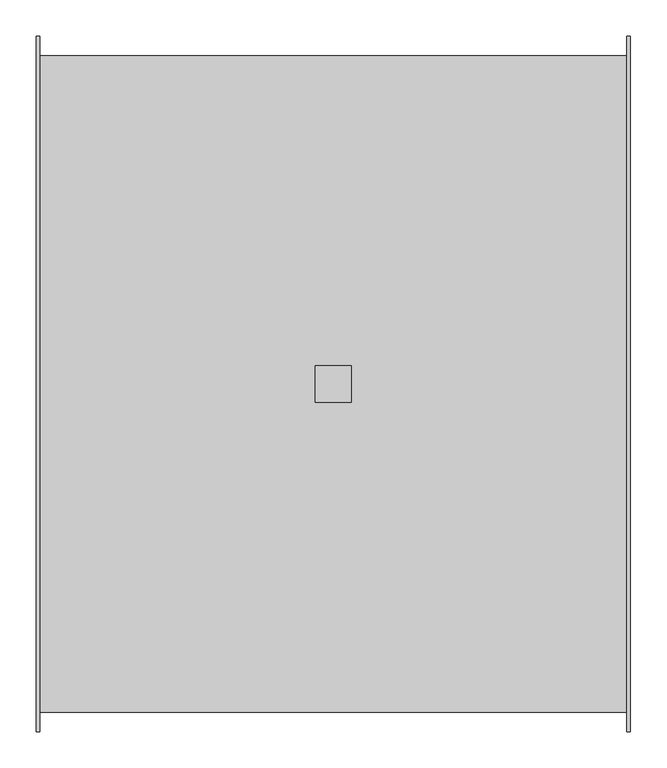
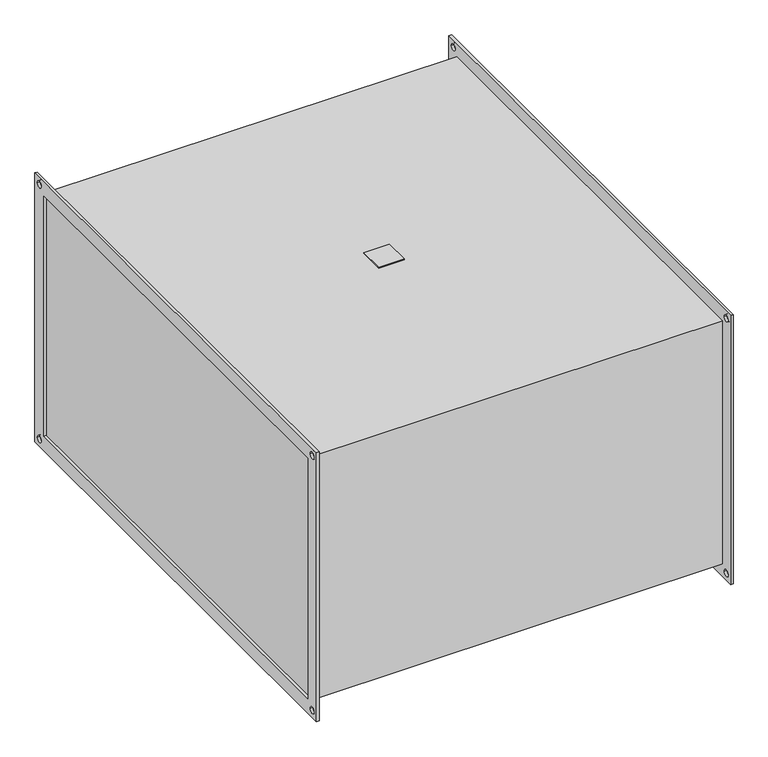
"""IFC4 building model written with IfcOpenShell, lengths in millimetres: damper geometry, KORF_Фильтр_Карманный_FKR : FKR 90-50  EU3."""

import ifcopenshell
import ifcopenshell.guid

model = None  # the IFC model being written
_history = None  # IfcOwnerHistory: only IFC2X3 demands one
_inside = {}  # id of a spatial element -> (the spatial element, [elements in it])
_under = {}  # id of a project, library or spatial element -> (it, [spatial elements below it])
_declared = {}  # id of a project -> (the project, [libraries it declares])
_typed = {}  # id of a type object -> (the type object, [elements of that type])
_made_of = {}  # id of a material, layer set ... -> (it, [elements and type objects made of it])


def new_model(schema):
    """Start an empty IFC model of exactly this schema.

    Asked for "IFC4X3", IfcOpenShell would pick the latest addendum, in which some entities
    have other attributes; the version numbers below select the first issue.
    IFC2X3 requires an IfcOwnerHistory on every rooted entity: one is made here for all.
    """
    global model, _history
    if schema == "IFC4X3":
        model = ifcopenshell.file(schema_version=(4, 3, 0, 0))
    else:
        model = ifcopenshell.file(schema=schema)
    _inside.clear()
    _under.clear()
    _declared.clear()
    _typed.clear()
    _made_of.clear()
    _history = None
    if model.schema == "IFC2X3":
        org = make("IfcOrganization", Name="unknown")
        user = make(
            "IfcPersonAndOrganization",
            ThePerson=make("IfcPerson", FamilyName="unknown"),
            TheOrganization=org,
        )
        app = make(
            "IfcApplication",
            ApplicationDeveloper=org,
            Version="unknown",
            ApplicationFullName="unknown",
            ApplicationIdentifier="unknown",
        )
        _history = make(
            "IfcOwnerHistory",
            OwningUser=user,
            OwningApplication=app,
            ChangeAction="ADDED",
            CreationDate=0,
        )
    return model


def make(cls, **values):
    """One entity of the class cls with the attributes given. An attribute that is None is left unset."""
    return model.create_entity(
        cls, **{name: value for name, value in values.items() if value is not None}
    )


def rooted(cls, **values):
    """An entity with a GlobalId (a new one), such as an element, a storey or a relation."""
    return make(cls, GlobalId=ifcopenshell.guid.new(), OwnerHistory=_history, **values)


def si_unit(unit_type, name, prefix=None):
    """IfcSIUnit, for example si_unit("LENGTHUNIT", "METRE", prefix="MILLI")."""
    return make("IfcSIUnit", UnitType=unit_type, Prefix=prefix, Name=name)


def assignment(units):
    """IfcUnitAssignment: the units of a project."""
    return None if units is None else make("IfcUnitAssignment", Units=units)


def point(xyz):
    """IfcCartesianPoint."""
    return None if xyz is None else make("IfcCartesianPoint", Coordinates=xyz)


def direction(xyz):
    """IfcDirection."""
    return None if xyz is None else make("IfcDirection", DirectionRatios=xyz)


def frame(location, z_axis=None, x_axis=None):
    """IfcAxis2Placement3D, a coordinate frame: its origin and axes. An axis left out is left unset."""
    return make(
        "IfcAxis2Placement3D",
        Location=point(location),
        Axis=direction(z_axis),
        RefDirection=direction(x_axis),
    )


def frame_2d(location, x_axis=None):
    """IfcAxis2Placement2D, a coordinate frame in the plane: its origin and x axis."""
    return make(
        "IfcAxis2Placement2D", Location=point(location), RefDirection=direction(x_axis)
    )


def origin():
    """The frame at (0, 0, 0) with its axes left unset."""
    return frame((0.0, 0.0, 0.0))


def place(relative_to, where):
    """IfcLocalPlacement: puts the frame where relative to a parent placement (None: the world)."""
    return make(
        "IfcLocalPlacement", PlacementRelTo=relative_to, RelativePlacement=where
    )


def context(
    kind, dimensions, precision=None, world=None, true_north=None, identifier=None
):
    """IfcGeometricRepresentationContext, for example the 3D "Model" context."""
    return make(
        "IfcGeometricRepresentationContext",
        ContextIdentifier=identifier,
        ContextType=kind,
        CoordinateSpaceDimension=dimensions,
        Precision=precision,
        WorldCoordinateSystem=world,
        TrueNorth=true_north,
    )


def project(units=None, contexts=None):
    """IfcProject with its units and contexts."""
    return rooted(
        "IfcProject",
        Name="project",
        RepresentationContexts=contexts,
        UnitsInContext=assignment(units),
    )


def spatial(cls, under=None, at=None, **own):
    """A site, building, storey or space (cls), placed at a placement, below another one or the project."""
    s = rooted(cls, ObjectPlacement=at, **own)
    if under is not None:
        _under.setdefault(under.id(), (under, []))[1].append(s)
    return s


def polyline(points):
    """IfcPolyline through the points."""
    return make("IfcPolyline", Points=[point(p) for p in points])


def circle_curve(where, radius):
    """IfcCircle in the frame where."""
    return make("IfcCircle", Position=where, Radius=radius)


def trimmed(basis, trim1, trim2, sense, master):
    """IfcTrimmedCurve: the piece of a basis curve between two trims."""
    return make(
        "IfcTrimmedCurve",
        BasisCurve=basis,
        Trim1=trim1,
        Trim2=trim2,
        SenseAgreement=sense,
        MasterRepresentation=master,
    )


def segment(curve, same_sense, transition):
    """IfcCompositeCurveSegment."""
    return make(
        "IfcCompositeCurveSegment",
        Transition=transition,
        SameSense=same_sense,
        ParentCurve=curve,
    )


def composite_curve(segments, self_intersect=None):
    """IfcCompositeCurve: segments joined end to end."""
    return make("IfcCompositeCurve", Segments=segments, SelfIntersect=self_intersect)


def outline(outer, holes=None, kind="AREA"):
    """IfcArbitraryClosedProfileDef: a profile drawn as a closed curve; with holes, ...WithVoids."""
    if holes is None:
        return make("IfcArbitraryClosedProfileDef", ProfileType=kind, OuterCurve=outer)
    return make(
        "IfcArbitraryProfileDefWithVoids",
        ProfileType=kind,
        OuterCurve=outer,
        InnerCurves=holes,
    )


def extrude(swept, where, along, depth):
    """IfcExtrudedAreaSolid: the profile swept, set in the frame where, extruded along a direction by depth."""
    return make(
        "IfcExtrudedAreaSolid",
        SweptArea=swept,
        Position=where,
        ExtrudedDirection=direction(along),
        Depth=depth,
    )


def shape(context_of_items, identifier, shape_type, items):
    """IfcShapeRepresentation: the items that make up one representation, for example the "Body"."""
    return make(
        "IfcShapeRepresentation",
        ContextOfItems=context_of_items,
        RepresentationIdentifier=identifier,
        RepresentationType=shape_type,
        Items=items,
    )


def source(mapping_origin, context_of_items, identifier, shape_type, items):
    """IfcRepresentationMap: a shape defined once, which mapped items show again and again."""
    return make(
        "IfcRepresentationMap",
        MappingOrigin=mapping_origin,
        MappedRepresentation=shape(context_of_items, identifier, shape_type, items),
    )


def transform(
    local_origin,
    x_axis=None,
    y_axis=None,
    z_axis=None,
    scale=None,
    scale2=None,
    scale3=None,
    uniform=True,
):
    """IfcCartesianTransformationOperator3D, or its non-uniform kind. x_axis, y_axis, z_axis: its Axis1, 2, 3."""
    if uniform:
        return make(
            "IfcCartesianTransformationOperator3D",
            Axis1=direction(x_axis),
            Axis2=direction(y_axis),
            LocalOrigin=point(local_origin),
            Scale=scale,
            Axis3=direction(z_axis),
        )
    return make(
        "IfcCartesianTransformationOperator3DnonUniform",
        Axis1=direction(x_axis),
        Axis2=direction(y_axis),
        LocalOrigin=point(local_origin),
        Scale=scale,
        Axis3=direction(z_axis),
        Scale2=scale2,
        Scale3=scale3,
    )


def mapped(mapping_source, mapping_target):
    """IfcMappedItem: shows the shape of a source again, moved by a transform."""
    return make(
        "IfcMappedItem", MappingSource=mapping_source, MappingTarget=mapping_target
    )


def made_of(thing, what):
    """Note that an element or type object is made of a material, layer set ...; save() writes the relation."""
    if what is not None:
        _made_of.setdefault(what.id(), (what, []))[1].append(thing)
    return thing


def element(
    cls,
    number,
    at=None,
    inside=None,
    cuts=None,
    type_object=None,
    material=None,
    context=None,
    identifier="Body",
    shape_type=None,
    held_by="IfcProductDefinitionShape",
    body=None,
    shapes=None,
    **own,
):
    """One element of the class cls, such as IfcWall. Its Tag is "e" and its number.

    at: its placement. inside: the storey or other place that contains it. cuts: it is an
    opening in that element (IfcRelVoidsElement). A single representation is given by context,
    identifier, shape_type and body (its items); several are given by shapes. held_by: the class
    of the entity that holds the representations. save() writes the other relations.
    """
    e = rooted(cls, Tag="e%d" % number, ObjectPlacement=at, **own)
    if body is not None:
        shapes = [shape(context, identifier, shape_type, body)]
    if shapes is not None:
        e.Representation = make(held_by, Representations=shapes)
    if inside is not None:
        _inside.setdefault(inside.id(), (inside, []))[1].append(e)
    if cuts is not None:
        rooted(
            "IfcRelVoidsElement", RelatingBuildingElement=cuts, RelatedOpeningElement=e
        )
    if type_object is not None:
        _typed.setdefault(type_object.id(), (type_object, []))[1].append(e)
    return made_of(e, material)


def aggregate(whole, parts):
    """IfcRelAggregates: a whole, such as a stair, and the parts it consists of."""
    return rooted("IfcRelAggregates", RelatingObject=whole, RelatedObjects=parts)


def save(model, path):
    """Write the relations noted so far, then the file.

    IfcRelAggregates (storeys below a building ...), IfcRelContainedInSpatialStructure (elements
    in a storey), IfcRelDefinesByType, IfcRelAssociatesMaterial and IfcRelDeclares: one each for
    every whole, place, type object, material and project.
    """
    for whole, parts in _under.values():
        aggregate(whole, parts)
    for where, things in _inside.values():
        rooted(
            "IfcRelContainedInSpatialStructure",
            RelatedElements=things,
            RelatingStructure=where,
        )
    for kind, things in _typed.values():
        rooted("IfcRelDefinesByType", RelatedObjects=things, RelatingType=kind)
    for what, things in _made_of.values():
        rooted("IfcRelAssociatesMaterial", RelatedObjects=things, RelatingMaterial=what)
    for by, libraries in _declared.values():
        rooted("IfcRelDeclares", RelatingContext=by, RelatedDefinitions=libraries)
    model.write(path)


def damper_7f4344f7(model_context):
    return source(origin(), model_context, "Body", "SweptSolid", [
        extrude(outline(polyline([(385.0, -25.0), (385.0, 25.0), (435.0, 25.0), (435.0, -25.0), (385.0, -25.0)])), frame((0.0, 0.0, 253.0), z_axis=(0.0, 0.0, 1.0), x_axis=(1.0, 0.0, 0.0)), (0.0, 0.0, 1.0), 2.0),
        extrude(outline(polyline([(-480.0, 280.0), (480.0, 280.0), (480.0, -280.0), (-480.0, -280.0), (-480.0, 280.0)]), holes=[polyline([(-450.0, 250.0), (-450.0, -250.0), (450.0, -250.0), (450.0, 250.0), (-450.0, 250.0)]), composite_curve([segment(trimmed(circle_curve(frame_2d((465.0, 265.0)), 6.5), [point((458.5, 265.0))], [point((471.5, 265.0))], True, "CARTESIAN"), True, "CONTINUOUS"), segment(trimmed(circle_curve(frame_2d((465.0, 265.0)), 6.5), [point((471.5, 265.0))], [point((458.5, 265.0))], True, "CARTESIAN"), True, "CONTINUOUS")], self_intersect=False), composite_curve([segment(trimmed(circle_curve(frame_2d((-465.0, 265.0)), 6.5), [point((-471.5, 265.0))], [point((-458.5, 265.0))], True, "CARTESIAN"), True, "CONTINUOUS"), segment(trimmed(circle_curve(frame_2d((-465.0, 265.0)), 6.5), [point((-458.5, 265.0))], [point((-471.5, 265.0))], True, "CARTESIAN"), True, "CONTINUOUS")], self_intersect=False), composite_curve([segment(trimmed(circle_curve(frame_2d((-465.0, -265.0)), 6.5), [point((-471.5, -265.0))], [point((-458.5, -265.0))], True, "CARTESIAN"), True, "CONTINUOUS"), segment(trimmed(circle_curve(frame_2d((-465.0, -265.0)), 6.5), [point((-458.5, -265.0))], [point((-471.5, -265.0))], True, "CARTESIAN"), True, "CONTINUOUS")], self_intersect=False), composite_curve([segment(trimmed(circle_curve(frame_2d((465.0, -265.0)), 6.5), [point((458.5, -265.0))], [point((471.5, -265.0))], True, "CARTESIAN"), True, "CONTINUOUS"), segment(trimmed(circle_curve(frame_2d((465.0, -265.0)), 6.5), [point((471.5, -265.0))], [point((458.5, -265.0))], True, "CARTESIAN"), True, "CONTINUOUS")], self_intersect=False)]), frame((815.0, 0.0, 0.0), z_axis=(1.0, 0.0, 0.0), x_axis=(0.0, 1.0, 0.0)), (0.0, 0.0, 1.0), 5.0),
        extrude(outline(polyline([(-480.0, 280.0), (480.0, 280.0), (480.0, -280.0), (-480.0, -280.0), (-480.0, 280.0)]), holes=[polyline([(-450.0, 250.0), (-450.0, -250.0), (450.0, -250.0), (450.0, 250.0), (-450.0, 250.0)]), composite_curve([segment(trimmed(circle_curve(frame_2d((465.0, 265.0)), 6.5), [point((458.5, 265.0))], [point((471.5, 265.0))], True, "CARTESIAN"), True, "CONTINUOUS"), segment(trimmed(circle_curve(frame_2d((465.0, 265.0)), 6.5), [point((471.5, 265.0))], [point((458.5, 265.0))], True, "CARTESIAN"), True, "CONTINUOUS")], self_intersect=False), composite_curve([segment(trimmed(circle_curve(frame_2d((-465.0, 265.0)), 6.5), [point((-471.5, 265.0))], [point((-458.5, 265.0))], True, "CARTESIAN"), True, "CONTINUOUS"), segment(trimmed(circle_curve(frame_2d((-465.0, 265.0)), 6.5), [point((-458.5, 265.0))], [point((-471.5, 265.0))], True, "CARTESIAN"), True, "CONTINUOUS")], self_intersect=False), composite_curve([segment(trimmed(circle_curve(frame_2d((-465.0, -265.0)), 6.5), [point((-471.5, -265.0))], [point((-458.5, -265.0))], True, "CARTESIAN"), True, "CONTINUOUS"), segment(trimmed(circle_curve(frame_2d((-465.0, -265.0)), 6.5), [point((-458.5, -265.0))], [point((-471.5, -265.0))], True, "CARTESIAN"), True, "CONTINUOUS")], self_intersect=False), composite_curve([segment(trimmed(circle_curve(frame_2d((465.0, -265.0)), 6.5), [point((458.5, -265.0))], [point((471.5, -265.0))], True, "CARTESIAN"), True, "CONTINUOUS"), segment(trimmed(circle_curve(frame_2d((465.0, -265.0)), 6.5), [point((471.5, -265.0))], [point((458.5, -265.0))], True, "CARTESIAN"), True, "CONTINUOUS")], self_intersect=False)]), frame((0.0, 0.0, 0.0), z_axis=(1.0, 0.0, 0.0), x_axis=(0.0, 1.0, 0.0)), (0.0, 0.0, 1.0), 5.0),
        extrude(outline(polyline([(815.0, 453.0), (815.0, -453.0), (5.0, -453.0), (5.0, 453.0), (815.0, 453.0)])), frame((0.0, 0.0, -253.0), z_axis=(0.0, 0.0, 1.0), x_axis=(1.0, 0.0, 0.0)), (0.0, 0.0, 1.0), 506.0),
    ])


if __name__ == "__main__":
    model = new_model("IFC4")
    model_context = context("Model", 3, world=origin())
    ifc_project = project(units=[si_unit("LENGTHUNIT", "METRE", prefix="MILLI")], contexts=[model_context])
    site = spatial("IfcSite", under=ifc_project)
    building = spatial("IfcBuilding", under=site)
    placement = place(None, origin())
    damper_shape = damper_7f4344f7(model_context)
    element("IfcDamper", 1, ObjectType="KORF_Фильтр_Карманный_FKR : FKR 90-50  EU3", at=placement, inside=building, context=model_context, shape_type="MappedRepresentation", body=[
        mapped(damper_shape, transform((0.0, 0.0, 0.0), x_axis=(1.0, 0.0, 0.0), y_axis=(0.0, 1.0, 0.0), z_axis=(0.0, 0.0, 1.0))),
    ])
    save(model, "model.ifc")
